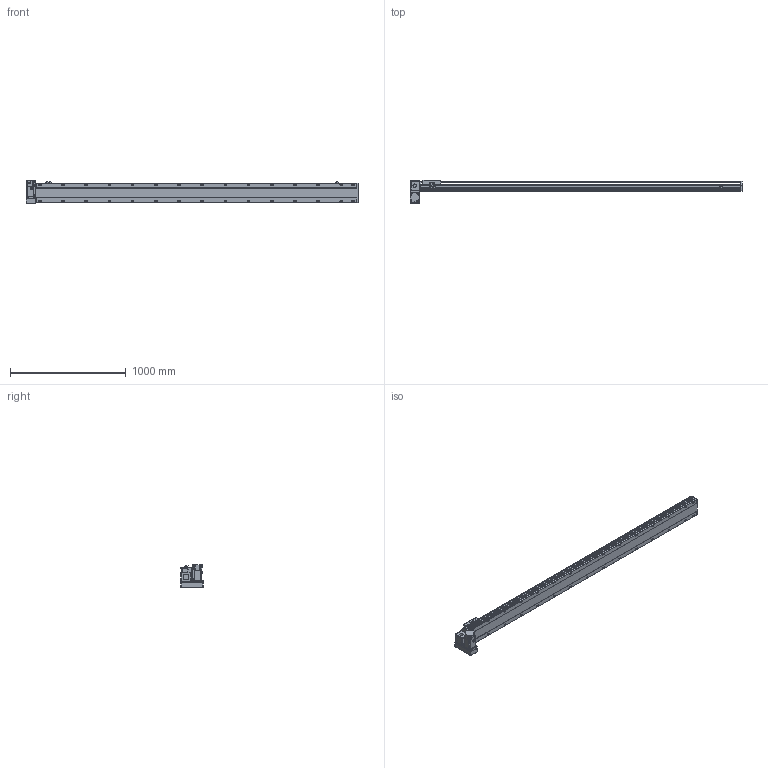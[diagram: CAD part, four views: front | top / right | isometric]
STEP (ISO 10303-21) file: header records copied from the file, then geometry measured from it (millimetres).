
FILE_DESCRIPTION( ( 'STEP AP214' ), '1' );
FILE_NAME( 'x:/temp/worker_4/temp/exporttempdir_2248_361_JC5UB/format_0/PBS170-P40-S2500-LD-T75-C1-N(0).stp', '2022-06-07T07:56:14', ( 'License CC BY-ND 4.0' ), ( 'CADENAS' ), ' ', 'PARTsolutions', ' ' );
FILE_SCHEMA( ( 'AUTOMOTIVE_DESIGN { 1 0 10303 214 1 1 1 1 }' ) );
Length unit declared in the file: millimetre
Products named in the file (7): PBS170-P40-S2500-LD-T75-C1-N(0); _PBS170-S2500()_body; _PBS170T-LD_motors; _T75-p1; _PBS170_sliser; _PBS170_plant; _PBS170_sensor
Assembly tree (8 placements, depth 2):
  PBS170-P40-S2500-LD-T75-C1-N(0)
    _PBS170-S2500()_body
    _PBS170T-LD_motors
    _T75-p1
    _PBS170_sliser
    _PBS170_plant
    _PBS170_sensor  x3
Bounding box: 2863 x 201 x 197.3 mm (x, y, z)
Volume: 21677293.2 mm3; surface area: 2730093.3 mm2
Topology: 8 solids, 8 shells, 1194 faces, 3155 edges, 2056 vertices
Faces by surface type: plane 729, cylinder 395, cone 60, sphere 8, torus 2
Full cylindrical faces by diameter (mm): 3.242 x4, 4 x2, 4.4 x4, 4.5 x6, 4.917 x4, 6 x9, 6.647 x38, 7 x2, 7.5 x4, 8 x8, 8.5 x30, 10 x4, 10.5 x30, 11 x2, 30 x2, 40 x1, 70 x1
Entity records: 44234 total; most frequent: CARTESIAN_POINT 7397, DIRECTION 5790, ORIENTED_EDGE 5448, EDGE_CURVE 2724, AXIS2_PLACEMENT_3D 2047, VERTEX_POINT 1898, LINE 1696, VECTOR 1696
